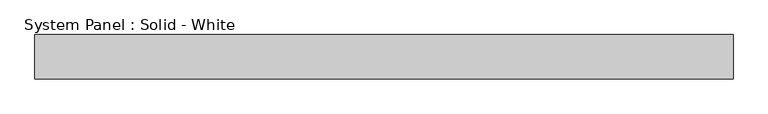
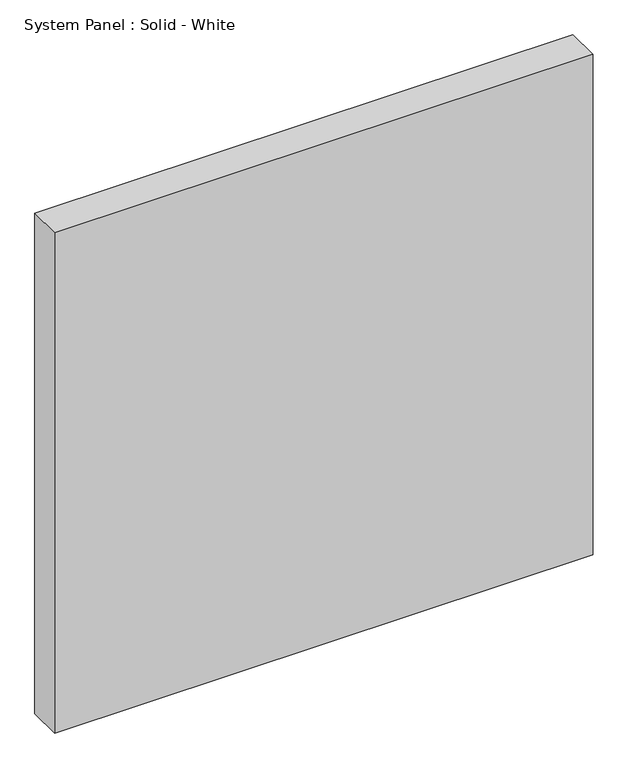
"""IFC4 building model written with IfcOpenShell, lengths in millimetres: plate geometry, System Panel : Solid - White."""

from ifc_helpers import new_model, si_unit, origin, origin_with_axes, place, context, project, spatial, polyline, outline, extrude, source, transform, mapped, element, save


def system_panel_solid_white_5bc9fe77(model_context):
    return source(origin(), model_context, "Body", "SweptSolid", [
        extrude(outline(polyline([(501.1964286, -19.05), (-501.1964286, -19.05), (-501.1964286, 44.45), (501.1964286, 44.45), (501.1964286, -19.05)])), origin_with_axes(), (0.0, 0.0, 1.0), 984.3895219),
    ])


if __name__ == "__main__":
    model = new_model("IFC4")
    model_context = context("Model", 3, world=origin())
    ifc_project = project(units=[si_unit("LENGTHUNIT", "METRE", prefix="MILLI")], contexts=[model_context])
    site = spatial("IfcSite", under=ifc_project)
    building = spatial("IfcBuilding", under=site)
    placement = place(None, origin())
    system_panel_solid_white_shape = system_panel_solid_white_5bc9fe77(model_context)
    element("IfcPlate", 1, ObjectType="System Panel : Solid - White", at=placement, inside=building, context=model_context, shape_type="MappedRepresentation", body=[
        mapped(system_panel_solid_white_shape, transform((0.0, 0.0, 0.0), x_axis=(1.0, 0.0, 0.0), y_axis=(0.0, 1.0, 0.0), z_axis=(0.0, 0.0, 1.0))),
    ])
    save(model, "model.ifc")
